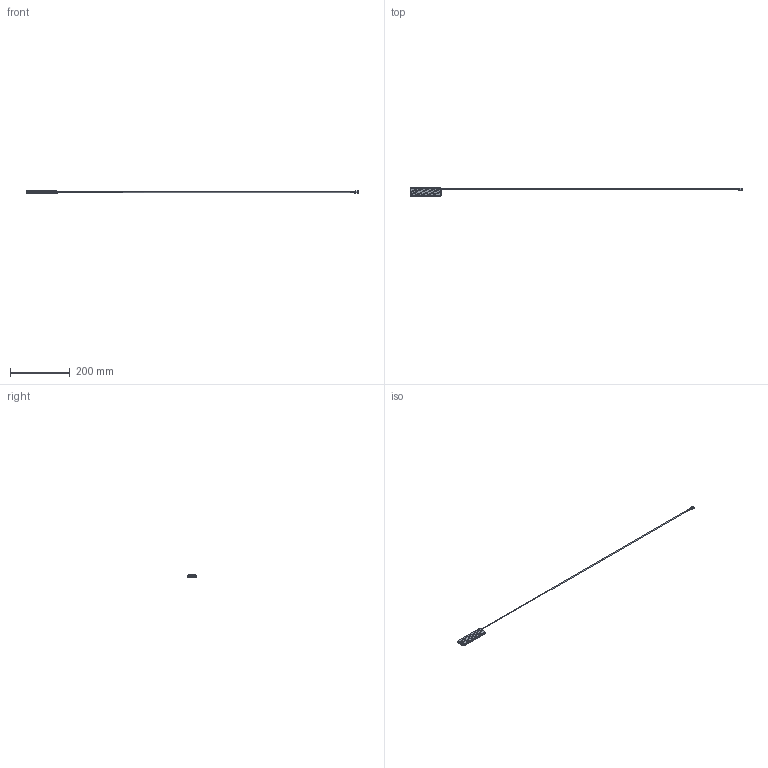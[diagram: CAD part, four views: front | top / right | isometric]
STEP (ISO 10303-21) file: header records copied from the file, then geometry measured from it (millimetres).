
FILE_DESCRIPTION((''),'2;1');
FILE_NAME('CASE','2026-05-12T16:08:41',('mrodriguez'),(''),'CREO PARAMETRIC BY PTC INC, 2025443','CREO PARAMETRIC BY PTC INC, 2025443','');
FILE_SCHEMA(('AUTOMOTIVE_DESIGN { 1 0 10303 214 1 1 1 1 }'));
Products named in the file (1): CASE
Bounding box: 1115.3 x 30.1 x 8.5 mm (x, y, z)
Volume: 28069 mm3; surface area: 19053.7 mm2
Topology: 1 solids, 5 shells, 1540 faces, 4271 edges, 2857 vertices
Faces by surface type: plane 855, extrusion 640, cylinder 33, cone 12
Entity records: 67909 total; most frequent: CARTESIAN_POINT 16301, ORIENTED_EDGE 8497, DIRECTION 5490, PRESENTATION_STYLE_ASSIGNMENT 4420, STYLED_ITEM 4273, CURVE_STYLE 4271, EDGE_CURVE 4271, VECTOR 3528
